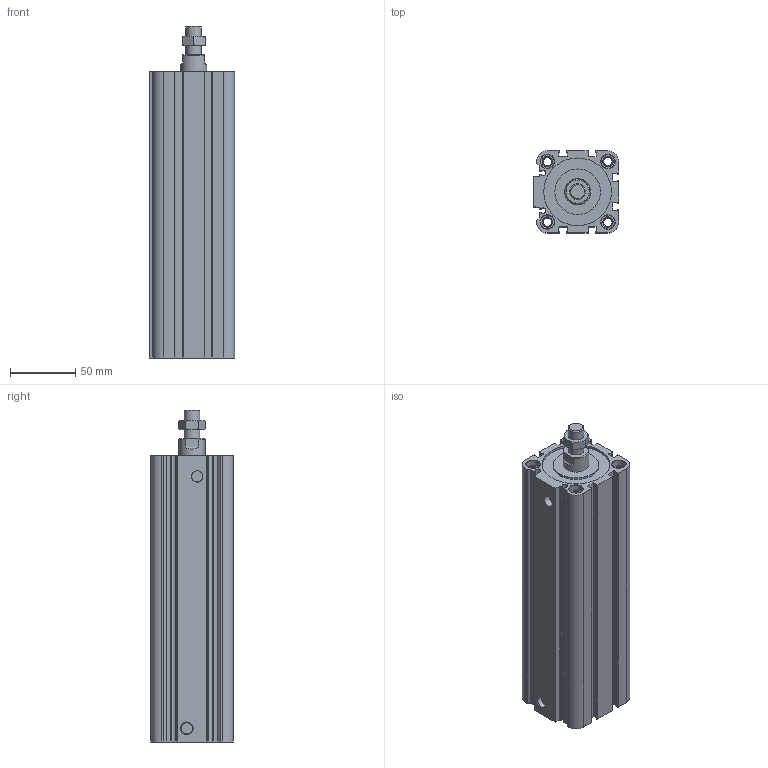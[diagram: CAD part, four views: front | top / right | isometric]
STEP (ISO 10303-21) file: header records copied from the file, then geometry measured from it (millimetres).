
FILE_DESCRIPTION( ( 'STEP AP214' ), '1' );
FILE_NAME( 'C:/Users/EMC02301/Desktop/RU0638 SF外牙 图纸/SF50X175-S-M.stp', '2026-07-24T09:41:31', ( 'License CC BY-ND 4.0' ), ( 'CADENAS' ), ' ', 'PARTsolutions', ' ' );
FILE_SCHEMA( ( 'AUTOMOTIVE_DESIGN { 1 0 10303 214 1 1 1 1 }' ) );
Length unit declared in the file: millimetre
Products named in the file (3): SF50X175-S-M()(05); _SF50X175()(_body) ; _SF50X175-M(rod-0)
Assembly tree (2 placements, depth 2):
  SF50X175-S-M()(05)
    _SF50X175()(_body) 
    _SF50X175-M(rod-0)
Bounding box: 65.5 x 63 x 255 mm (x, y, z)
Volume: 498398.5 mm3; surface area: 152768.3 mm2
Topology: 2 solids, 2 shells, 221 faces, 566 edges, 368 vertices
Faces by surface type: plane 99, cylinder 88, cone 34
Full cylindrical faces by diameter (mm): 6.647 x4, 8.566 x1, 10.5 x8, 12 x2, 20 x2, 35 x1, 50 x3, 52 x1
Entity records: 8414 total; most frequent: CARTESIAN_POINT 1256, DIRECTION 1154, ORIENTED_EDGE 1040, EDGE_CURVE 520, AXIS2_PLACEMENT_3D 438, VERTEX_POINT 364, EDGE_LOOP 290, LINE 278
